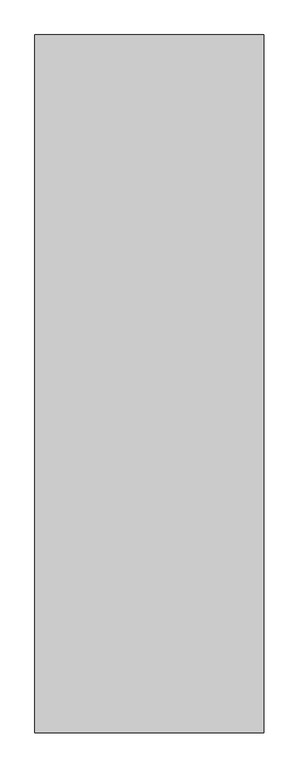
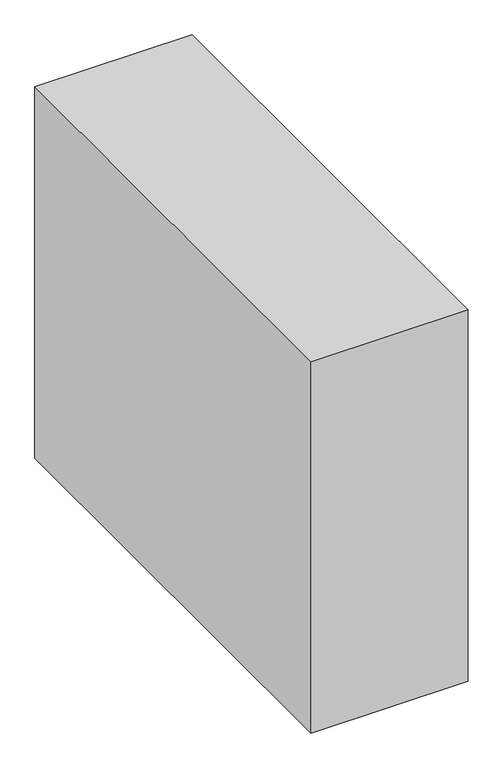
"""IFC4 building model written with IfcOpenShell, lengths in millimetres: proxy geometry."""

import ifcopenshell
import ifcopenshell.guid

model = None  # the IFC model being written
_history = None  # IfcOwnerHistory: only IFC2X3 demands one
_inside = {}  # id of a spatial element -> (the spatial element, [elements in it])
_under = {}  # id of a project, library or spatial element -> (it, [spatial elements below it])
_declared = {}  # id of a project -> (the project, [libraries it declares])
_typed = {}  # id of a type object -> (the type object, [elements of that type])
_made_of = {}  # id of a material, layer set ... -> (it, [elements and type objects made of it])


def new_model(schema):
    """Start an empty IFC model of exactly this schema.

    Asked for "IFC4X3", IfcOpenShell would pick the latest addendum, in which some entities
    have other attributes; the version numbers below select the first issue.
    IFC2X3 requires an IfcOwnerHistory on every rooted entity: one is made here for all.
    """
    global model, _history
    if schema == "IFC4X3":
        model = ifcopenshell.file(schema_version=(4, 3, 0, 0))
    else:
        model = ifcopenshell.file(schema=schema)
    _inside.clear()
    _under.clear()
    _declared.clear()
    _typed.clear()
    _made_of.clear()
    _history = None
    if model.schema == "IFC2X3":
        org = make("IfcOrganization", Name="unknown")
        user = make(
            "IfcPersonAndOrganization",
            ThePerson=make("IfcPerson", FamilyName="unknown"),
            TheOrganization=org,
        )
        app = make(
            "IfcApplication",
            ApplicationDeveloper=org,
            Version="unknown",
            ApplicationFullName="unknown",
            ApplicationIdentifier="unknown",
        )
        _history = make(
            "IfcOwnerHistory",
            OwningUser=user,
            OwningApplication=app,
            ChangeAction="ADDED",
            CreationDate=0,
        )
    return model


def make(cls, **values):
    """One entity of the class cls with the attributes given. An attribute that is None is left unset."""
    return model.create_entity(
        cls, **{name: value for name, value in values.items() if value is not None}
    )


def rooted(cls, **values):
    """An entity with a GlobalId (a new one), such as an element, a storey or a relation."""
    return make(cls, GlobalId=ifcopenshell.guid.new(), OwnerHistory=_history, **values)


def si_unit(unit_type, name, prefix=None):
    """IfcSIUnit, for example si_unit("LENGTHUNIT", "METRE", prefix="MILLI")."""
    return make("IfcSIUnit", UnitType=unit_type, Prefix=prefix, Name=name)


def assignment(units):
    """IfcUnitAssignment: the units of a project."""
    return None if units is None else make("IfcUnitAssignment", Units=units)


def point(xyz):
    """IfcCartesianPoint."""
    return None if xyz is None else make("IfcCartesianPoint", Coordinates=xyz)


def direction(xyz):
    """IfcDirection."""
    return None if xyz is None else make("IfcDirection", DirectionRatios=xyz)


def frame(location, z_axis=None, x_axis=None):
    """IfcAxis2Placement3D, a coordinate frame: its origin and axes. An axis left out is left unset."""
    return make(
        "IfcAxis2Placement3D",
        Location=point(location),
        Axis=direction(z_axis),
        RefDirection=direction(x_axis),
    )


def origin():
    """The frame at (0, 0, 0) with its axes left unset."""
    return frame((0.0, 0.0, 0.0))


def origin_with_axes():
    """The frame at (0, 0, 0) with the z axis (0, 0, 1) and the x axis (1, 0, 0) written out."""
    return frame((0.0, 0.0, 0.0), z_axis=(0.0, 0.0, 1.0), x_axis=(1.0, 0.0, 0.0))


def place(relative_to, where):
    """IfcLocalPlacement: puts the frame where relative to a parent placement (None: the world)."""
    return make(
        "IfcLocalPlacement", PlacementRelTo=relative_to, RelativePlacement=where
    )


def context(
    kind, dimensions, precision=None, world=None, true_north=None, identifier=None
):
    """IfcGeometricRepresentationContext, for example the 3D "Model" context."""
    return make(
        "IfcGeometricRepresentationContext",
        ContextIdentifier=identifier,
        ContextType=kind,
        CoordinateSpaceDimension=dimensions,
        Precision=precision,
        WorldCoordinateSystem=world,
        TrueNorth=true_north,
    )


def project(units=None, contexts=None):
    """IfcProject with its units and contexts."""
    return rooted(
        "IfcProject",
        Name="project",
        RepresentationContexts=contexts,
        UnitsInContext=assignment(units),
    )


def spatial(cls, under=None, at=None, **own):
    """A site, building, storey or space (cls), placed at a placement, below another one or the project."""
    s = rooted(cls, ObjectPlacement=at, **own)
    if under is not None:
        _under.setdefault(under.id(), (under, []))[1].append(s)
    return s


def polyline(points):
    """IfcPolyline through the points."""
    return make("IfcPolyline", Points=[point(p) for p in points])


def outline(outer, holes=None, kind="AREA"):
    """IfcArbitraryClosedProfileDef: a profile drawn as a closed curve; with holes, ...WithVoids."""
    if holes is None:
        return make("IfcArbitraryClosedProfileDef", ProfileType=kind, OuterCurve=outer)
    return make(
        "IfcArbitraryProfileDefWithVoids",
        ProfileType=kind,
        OuterCurve=outer,
        InnerCurves=holes,
    )


def extrude(swept, where, along, depth):
    """IfcExtrudedAreaSolid: the profile swept, set in the frame where, extruded along a direction by depth."""
    return make(
        "IfcExtrudedAreaSolid",
        SweptArea=swept,
        Position=where,
        ExtrudedDirection=direction(along),
        Depth=depth,
    )


def shape(context_of_items, identifier, shape_type, items):
    """IfcShapeRepresentation: the items that make up one representation, for example the "Body"."""
    return make(
        "IfcShapeRepresentation",
        ContextOfItems=context_of_items,
        RepresentationIdentifier=identifier,
        RepresentationType=shape_type,
        Items=items,
    )


def source(mapping_origin, context_of_items, identifier, shape_type, items):
    """IfcRepresentationMap: a shape defined once, which mapped items show again and again."""
    return make(
        "IfcRepresentationMap",
        MappingOrigin=mapping_origin,
        MappedRepresentation=shape(context_of_items, identifier, shape_type, items),
    )


def transform(
    local_origin,
    x_axis=None,
    y_axis=None,
    z_axis=None,
    scale=None,
    scale2=None,
    scale3=None,
    uniform=True,
):
    """IfcCartesianTransformationOperator3D, or its non-uniform kind. x_axis, y_axis, z_axis: its Axis1, 2, 3."""
    if uniform:
        return make(
            "IfcCartesianTransformationOperator3D",
            Axis1=direction(x_axis),
            Axis2=direction(y_axis),
            LocalOrigin=point(local_origin),
            Scale=scale,
            Axis3=direction(z_axis),
        )
    return make(
        "IfcCartesianTransformationOperator3DnonUniform",
        Axis1=direction(x_axis),
        Axis2=direction(y_axis),
        LocalOrigin=point(local_origin),
        Scale=scale,
        Axis3=direction(z_axis),
        Scale2=scale2,
        Scale3=scale3,
    )


def mapped(mapping_source, mapping_target):
    """IfcMappedItem: shows the shape of a source again, moved by a transform."""
    return make(
        "IfcMappedItem", MappingSource=mapping_source, MappingTarget=mapping_target
    )


def made_of(thing, what):
    """Note that an element or type object is made of a material, layer set ...; save() writes the relation."""
    if what is not None:
        _made_of.setdefault(what.id(), (what, []))[1].append(thing)
    return thing


def element(
    cls,
    number,
    at=None,
    inside=None,
    cuts=None,
    type_object=None,
    material=None,
    context=None,
    identifier="Body",
    shape_type=None,
    held_by="IfcProductDefinitionShape",
    body=None,
    shapes=None,
    **own,
):
    """One element of the class cls, such as IfcWall. Its Tag is "e" and its number.

    at: its placement. inside: the storey or other place that contains it. cuts: it is an
    opening in that element (IfcRelVoidsElement). A single representation is given by context,
    identifier, shape_type and body (its items); several are given by shapes. held_by: the class
    of the entity that holds the representations. save() writes the other relations.
    """
    e = rooted(cls, Tag="e%d" % number, ObjectPlacement=at, **own)
    if body is not None:
        shapes = [shape(context, identifier, shape_type, body)]
    if shapes is not None:
        e.Representation = make(held_by, Representations=shapes)
    if inside is not None:
        _inside.setdefault(inside.id(), (inside, []))[1].append(e)
    if cuts is not None:
        rooted(
            "IfcRelVoidsElement", RelatingBuildingElement=cuts, RelatedOpeningElement=e
        )
    if type_object is not None:
        _typed.setdefault(type_object.id(), (type_object, []))[1].append(e)
    return made_of(e, material)


def aggregate(whole, parts):
    """IfcRelAggregates: a whole, such as a stair, and the parts it consists of."""
    return rooted("IfcRelAggregates", RelatingObject=whole, RelatedObjects=parts)


def save(model, path):
    """Write the relations noted so far, then the file.

    IfcRelAggregates (storeys below a building ...), IfcRelContainedInSpatialStructure (elements
    in a storey), IfcRelDefinesByType, IfcRelAssociatesMaterial and IfcRelDeclares: one each for
    every whole, place, type object, material and project.
    """
    for whole, parts in _under.values():
        aggregate(whole, parts)
    for where, things in _inside.values():
        rooted(
            "IfcRelContainedInSpatialStructure",
            RelatedElements=things,
            RelatingStructure=where,
        )
    for kind, things in _typed.values():
        rooted("IfcRelDefinesByType", RelatedObjects=things, RelatingType=kind)
    for what, things in _made_of.values():
        rooted("IfcRelAssociatesMaterial", RelatedObjects=things, RelatingMaterial=what)
    for by, libraries in _declared.values():
        rooted("IfcRelDeclares", RelatingContext=by, RelatedDefinitions=libraries)
    model.write(path)


def generic_models_1c04be35(model_context):
    return source(origin(), model_context, "Body", "SweptSolid", [
        extrude(outline(polyline([(-13942.7157988, -1247.5), (-14942.7157988, -1247.5), (-14942.7157988, 1800.5), (-13942.7157988, 1800.5), (-13942.7157988, -1247.5)])), origin_with_axes(), (0.0, 0.0, 1.0), 2500.0),
    ])


if __name__ == "__main__":
    model = new_model("IFC4")
    model_context = context("Model", 3, world=origin())
    ifc_project = project(units=[si_unit("LENGTHUNIT", "METRE", prefix="MILLI")], contexts=[model_context])
    site = spatial("IfcSite", under=ifc_project)
    building = spatial("IfcBuilding", under=site)
    placement = place(None, origin())
    generic_models_shape = generic_models_1c04be35(model_context)
    element("IfcBuildingElementProxy", 1, Name="Generic Models", at=placement, inside=building, context=model_context, shape_type="MappedRepresentation", body=[
        mapped(generic_models_shape, transform((0.0, 0.0, 0.0), x_axis=(1.0, 0.0, 0.0), y_axis=(0.0, 1.0, 0.0), z_axis=(0.0, 0.0, 1.0))),
    ])
    save(model, "model.ifc")
